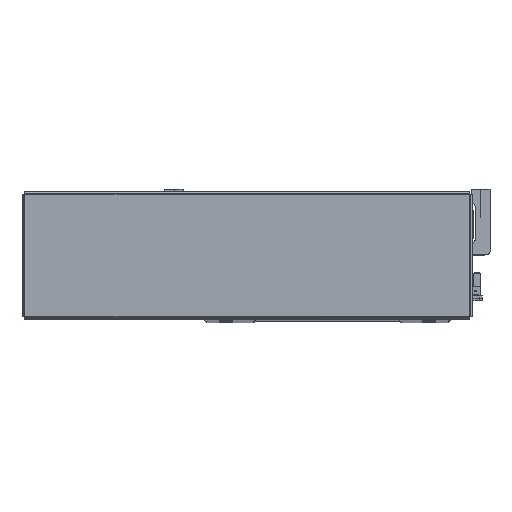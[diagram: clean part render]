
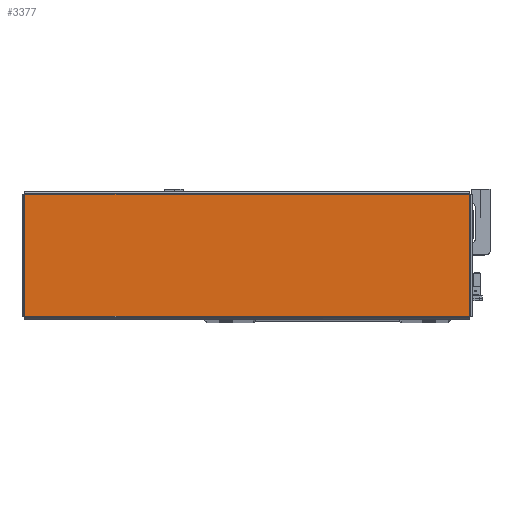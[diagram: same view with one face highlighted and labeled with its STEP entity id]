
A CAD part, top view. The second image highlights one B-rep face of the part: STEP entity #3377.
In plain terms, the highlighted planar face has unit normal (0, 0, 1) as drawn and (0, -1, 0) by its records, which use the part's own axes.
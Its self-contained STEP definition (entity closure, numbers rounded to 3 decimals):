
#1694 = CARTESIAN_POINT ( 'NONE',  ( 154.043, -1.2, 42.263 ) ) ;
#1753 = DIRECTION ( 'NONE',  ( -1., 0., 0. ) ) ;
#1767 = CARTESIAN_POINT ( 'NONE',  ( -154.013, -1.2, 42.293 ) ) ;
#1784 = DIRECTION ( 'NONE',  ( 0., 0., -1. ) ) ;
#1868 = DIRECTION ( 'NONE',  ( 0., 0., 1. ) ) ;
#1880 = CARTESIAN_POINT ( 'NONE',  ( -154.043, -1.2, -42.263 ) ) ;
#1886 = CARTESIAN_POINT ( 'NONE',  ( 154.013, -1.2, -42.293 ) ) ;
#1901 = DIRECTION ( 'NONE',  ( 1., 0., 0. ) ) ;
#3377 = ADVANCED_FACE ( 'NONE', ( #9072 ), #10751, .F. ) ;
#9072 = FACE_OUTER_BOUND ( 'NONE', #52334, .T. ) ;
#10751 = PLANE ( 'NONE',  #27273 ) ;
#10754 = CARTESIAN_POINT ( 'NONE',  ( 0., -1.2, 0. ) ) ;
#10755 = DIRECTION ( 'NONE',  ( 0., 0., 1. ) ) ;
#10775 = DIRECTION ( 'NONE',  ( 0., 1., 0. ) ) ;
#17234 = EDGE_CURVE ( 'NONE', #38285, #38309, #52961, .T. ) ;
#17253 = EDGE_CURVE ( 'NONE', #38309, #38277, #53023, .T. ) ;
#17288 = EDGE_CURVE ( 'NONE', #38323, #38285, #53001, .T. ) ;
#17293 = EDGE_CURVE ( 'NONE', #38277, #38323, #53089, .T. ) ;
#27273 = AXIS2_PLACEMENT_3D ( 'NONE', #10754, #10775, #10755 ) ;
#37041 = CARTESIAN_POINT ( 'NONE',  ( -154.013, -1.2, -42.263 ) ) ;
#37048 = CARTESIAN_POINT ( 'NONE',  ( -154.013, -1.2, 42.263 ) ) ;
#37069 = CARTESIAN_POINT ( 'NONE',  ( 154.013, -1.2, -42.263 ) ) ;
#37076 = CARTESIAN_POINT ( 'NONE',  ( 154.013, -1.2, 42.263 ) ) ;
#38277 = VERTEX_POINT ( 'NONE', #37041 ) ;
#38285 = VERTEX_POINT ( 'NONE', #37076 ) ;
#38309 = VERTEX_POINT ( 'NONE', #37048 ) ;
#38323 = VERTEX_POINT ( 'NONE', #37069 ) ;
#48098 = ORIENTED_EDGE ( 'NONE', *, *, #17288, .T. ) ;
#48238 = ORIENTED_EDGE ( 'NONE', *, *, #17234, .T. ) ;
#48256 = ORIENTED_EDGE ( 'NONE', *, *, #17293, .T. ) ;
#48306 = ORIENTED_EDGE ( 'NONE', *, *, #17253, .T. ) ;
#52334 = EDGE_LOOP ( 'NONE', ( #48098, #48238, #48306, #48256 ) ) ;
#52961 = LINE ( 'NONE', #1694, #52977 ) ;
#52977 = VECTOR ( 'NONE', #1753, 1000. ) ;
#53001 = LINE ( 'NONE', #1886, #53003 ) ;
#53003 = VECTOR ( 'NONE', #1868, 1000. ) ;
#53011 = VECTOR ( 'NONE', #1784, 1000. ) ;
#53023 = LINE ( 'NONE', #1767, #53011 ) ;
#53075 = VECTOR ( 'NONE', #1901, 1000. ) ;
#53089 = LINE ( 'NONE', #1880, #53075 ) ;
